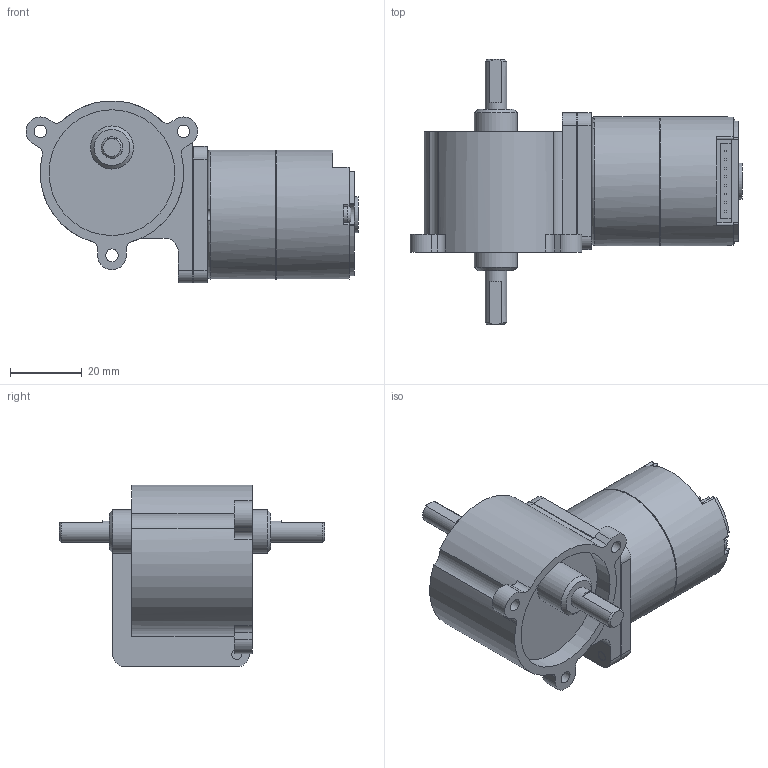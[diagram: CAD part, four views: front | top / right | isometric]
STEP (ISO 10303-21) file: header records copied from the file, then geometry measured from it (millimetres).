
FILE_DESCRIPTION((''),'2;1');
FILE_NAME('C:\Documents and Settings\SSEGAWA\デスクトップ\TP-3641A-KWR.STP','2013-07-30T23:18:30',('SSEGAWA'),(''),'Autodesk Inventor 2010','Autodesk Inventor 2010','');
FILE_SCHEMA(('CONFIG_CONTROL_DESIGN'));
Length unit declared in the file: millimetre
Products named in the file (1): tp_3641abcde_kwr_Shrinkwrap_1
Bounding box: 92.42 x 73.9 x 50.63 mm (x, y, z)
Volume: 92679.6 mm3; surface area: 17230.1 mm2
Topology: 1 solids, 9 shells, 228 faces, 561 edges, 371 vertices
Faces by surface type: plane 122, cylinder 62, bspline 36, cone 5, torus 3
Full cylindrical faces by diameter (mm): 2.5 x2, 5 x1, 6 x2, 10 x2, 12 x2, 35 x1, 35.6 x1, 36 x2
Entity records: 6970 total; most frequent: CARTESIAN_POINT 1666, DIRECTION 1053, ORIENTED_EDGE 966, EDGE_CURVE 483, AXIS2_PLACEMENT_3D 385, VERTEX_POINT 341, EDGE_LOOP 304, VECTOR 283
